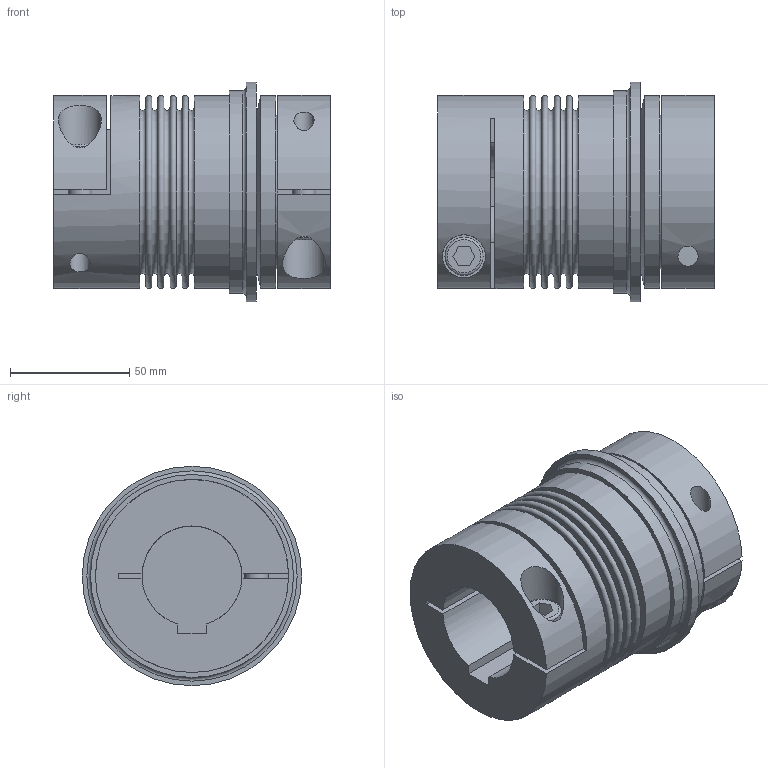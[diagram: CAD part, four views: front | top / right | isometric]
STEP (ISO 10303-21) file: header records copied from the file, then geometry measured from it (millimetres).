
FILE_DESCRIPTION(/* description */ ('STEP AP214'),/* implementation_level */ '2;1');
FILE_NAME(/* name */ 'C:\Diequa Files\DieQua Coupling\TB2\STP\TB2.150.116.WDG.#.#.stp',/* time_stamp */ '2019-04-26T10:41:17-05:00',/* author */ ('DiequaCAD'),/* organization */ (''),/* preprocessor_version */ 'ST-DEVELOPER v18',/* originating_system */ 'Autodesk Inventor 2020',/* authorisation */ ' ');
FILE_SCHEMA (('AUTOMOTIVE_DESIGN { 1 0 10303 214 3 1 1 }'));
Length unit declared in the file: millimetre
Products named in the file (1): TB2.150.116.WDG.#.#
Bounding box: 116 x 92 x 92 mm (x, y, z)
Volume: 472435.6 mm3; surface area: 81301.9 mm2
Topology: 1 solids, 1 shells, 90 faces, 212 edges, 148 vertices
Faces by surface type: plane 57, cylinder 20, torus 12, cone 1
Full cylindrical faces by diameter (mm): 8.5 x2, 10 x2, 11 x2, 16 x2, 18 x2, 65 x1, 81 x3, 85.2 x1, 92 x1
Entity records: 2857 total; most frequent: CARTESIAN_POINT 603, DIRECTION 491, ORIENTED_EDGE 424, EDGE_CURVE 212, AXIS2_PLACEMENT_3D 194, VERTEX_POINT 148, EDGE_LOOP 118, LINE 103
